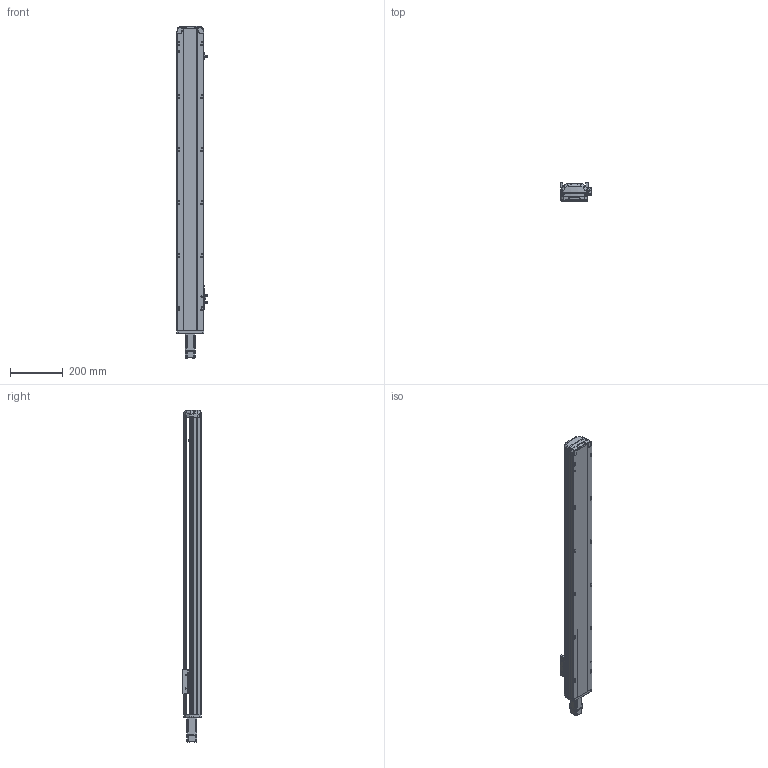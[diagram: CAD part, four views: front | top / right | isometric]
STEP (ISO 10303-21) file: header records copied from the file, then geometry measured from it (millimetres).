
FILE_DESCRIPTION (( 'STEP AP214' ), '1' );
FILE_NAME ('RTH10-XX-900-E-M10-C4.STEP', '2025-10-25T05:27:37', ( 'Microsoft' ), ( 'Microsoft' ), 'SwSTEP 2.0', 'SolidWorks 2018', '' );
FILE_SCHEMA (( 'AUTOMOTIVE_DESIGN' ));
Length unit declared in the file: millimetre
Products named in the file (9): N_RTH12-GY-001P^RTH10-XX-XX-E-M10-C4; N_RTH12-E-008-M10萇儂啣^RTH10-XX-XX-E-M10-C4; N_RTH12-E-007P-奻裔^RTH10-XX-XX-E-M10-C4; N_OMRON EE-SX672 传感器^RTH10-XX-XX-E-M10-C4; RTH10-XX-900-E-M10-C4; N_P10^RTH10-XX-XX-E-M10-C4; N_RTH13-L-012覜茼え俋离^RTH10-XX-XX-E-M10-C4; N_RTH12-GY-004-賑釱^RTH10-XX-XX-E-M10-C4; N_RTH12-E-011P-臏倰第菁釱^RTH10-XX-XX-E-M10-C4
Assembly tree (10 placements, depth 2):
  RTH10-XX-900-E-M10-C4
    N_RTH12-E-011P-臏倰第菁釱^RTH10-XX-XX-E-M10-C4
    N_RTH13-L-012覜茼え俋离^RTH10-XX-XX-E-M10-C4
    N_OMRON EE-SX672 传感器^RTH10-XX-XX-E-M10-C4  x3
    N_P10^RTH10-XX-XX-E-M10-C4
    N_RTH12-E-007P-奻裔^RTH10-XX-XX-E-M10-C4
    N_RTH12-E-008-M10萇儂啣^RTH10-XX-XX-E-M10-C4
    N_RTH12-GY-001P^RTH10-XX-XX-E-M10-C4
    N_RTH12-GY-004-賑釱^RTH10-XX-XX-E-M10-C4
Bounding box: 116.5 x 70 x 1253.34 mm (x, y, z)
Volume: 4558441.5 mm3; surface area: 712530.4 mm2
Topology: 9 solids, 11 shells, 1972 faces, 5497 edges, 3606 vertices
Faces by surface type: plane 976, cylinder 489, bspline 472, cone 33, torus 2
Entity records: 59461 total; most frequent: CARTESIAN_POINT 23474, ORIENTED_EDGE 8074, DIRECTION 6241, EDGE_CURVE 4043, VERTEX_POINT 2650, VECTOR 2127, LINE 2127, AXIS2_PLACEMENT_3D 2057
